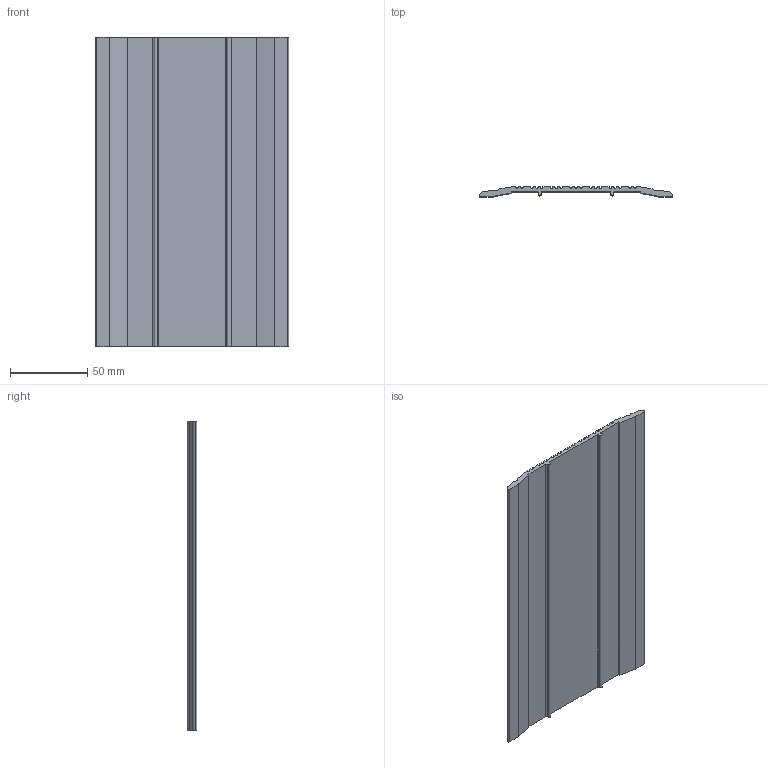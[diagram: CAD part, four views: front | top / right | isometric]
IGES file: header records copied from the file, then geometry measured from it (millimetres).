
Global section: file name: No Iges File Name specified; native system: Autodesk Inventor 2012; preprocessor: AutoDesk Inventor Iges Exporter R2012; author: anna.b; date: 20130614.101038; units: millimetre
Bounding box: 125 x 6.35 x 200 mm (x, y, z)
Volume: 78126.6 mm3; surface area: 57576.5 mm2
Topology: 1 solids, 1 shells, 72 faces, 210 edges, 140 vertices
Faces by surface type: plane 41, revolution 25, cylinder 6
